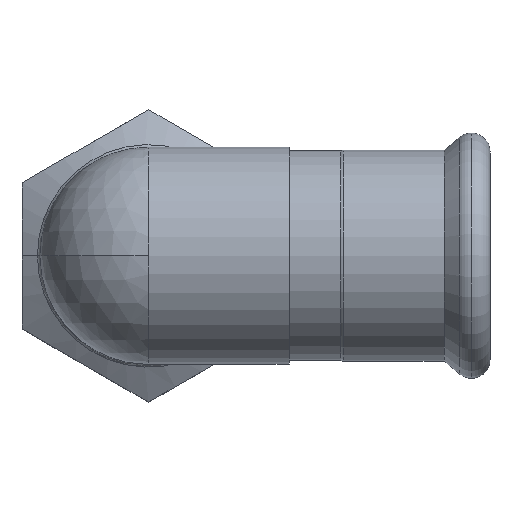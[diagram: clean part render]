
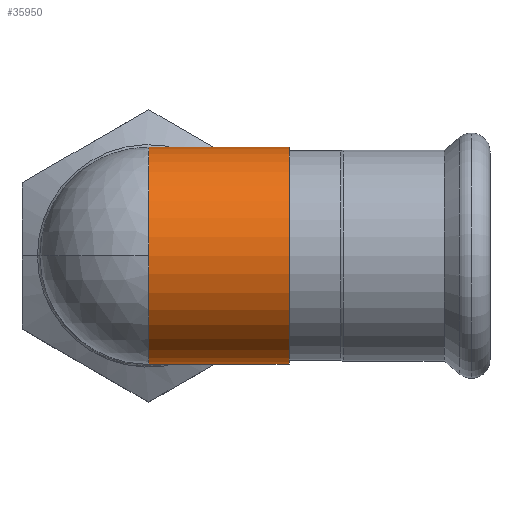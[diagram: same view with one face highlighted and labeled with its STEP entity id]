
A CAD part, top view. The second image highlights one B-rep face of the part: STEP entity #35950.
In plain terms, the highlighted cylindrical face has radius 19.7 mm (diameter 39.4 mm), a partial arc.
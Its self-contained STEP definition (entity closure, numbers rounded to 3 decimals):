
#8310=CARTESIAN_POINT('',(38.369,-117.253,42.2));
#8320=VERTEX_POINT('',#8310);
#8720=CARTESIAN_POINT('',(63.869,-136.953,42.2));
#8730=DIRECTION('',(1.,0.,-0.));
#8740=DIRECTION('',(0.,1.,0.));
#8750=AXIS2_PLACEMENT_3D('',#8720,#8730,#8740);
#8760=CIRCLE('',#8750,19.7);
#8770=CARTESIAN_POINT('',(63.869,-117.253,42.2));
#8780=VERTEX_POINT('',#8770);
#8790=CARTESIAN_POINT('',(63.869,-156.653,42.2));
#8800=VERTEX_POINT('',#8790);
#8810=EDGE_CURVE('',#8780,#8800,#8760,.T.);
#9230=CARTESIAN_POINT('',(38.369,-136.953,61.9));
#9240=VERTEX_POINT('',#9230);
#9270=CARTESIAN_POINT('',(38.369,-136.953,42.2));
#9280=DIRECTION('',(1.,0.,-0.));
#9290=DIRECTION('',(0.,1.,0.));
#9300=AXIS2_PLACEMENT_3D('',#9270,#9280,#9290);
#9310=CIRCLE('',#9300,19.7);
#9320=CARTESIAN_POINT('',(38.369,-156.653,42.2));
#9330=VERTEX_POINT('',#9320);
#9340=EDGE_CURVE('',#9240,#9330,#9310,.T.);
#22950=EDGE_CURVE('',#8320,#9240,#9310,.T.);
#31200=CARTESIAN_POINT('',(63.869,-136.953,42.2));
#31210=DIRECTION('',(1.,0.,-0.));
#31220=DIRECTION('',(0.,1.,0.));
#31230=AXIS2_PLACEMENT_3D('',#31200,#31210,#31220);
#31240=CYLINDRICAL_SURFACE('',#31230,19.7);
#32440=CARTESIAN_POINT('',(63.869,-156.653,42.2));
#32450=DIRECTION('',(1.,0.,-0.));
#32460=VECTOR('',#32450,1.);
#32470=LINE('',#32440,#32460);
#32480=EDGE_CURVE('',#9330,#8800,#32470,.T.);
#32510=CARTESIAN_POINT('',(63.869,-117.253,42.2));
#32520=DIRECTION('',(1.,0.,-0.));
#32530=VECTOR('',#32520,1.);
#32540=LINE('',#32510,#32530);
#32550=EDGE_CURVE('',#8320,#8780,#32540,.T.);
#35880=ORIENTED_EDGE('',*,*,#8810,.F.);
#35890=ORIENTED_EDGE('',*,*,#32480,.T.);
#35900=ORIENTED_EDGE('',*,*,#9340,.T.);
#35910=ORIENTED_EDGE('',*,*,#22950,.T.);
#35920=ORIENTED_EDGE('',*,*,#32550,.F.);
#35930=EDGE_LOOP('',(#35920,#35910,#35900,#35890,#35880));
#35940=FACE_OUTER_BOUND('',#35930,.T.);
#35950=ADVANCED_FACE('',(#35940),#31240,.T.);
